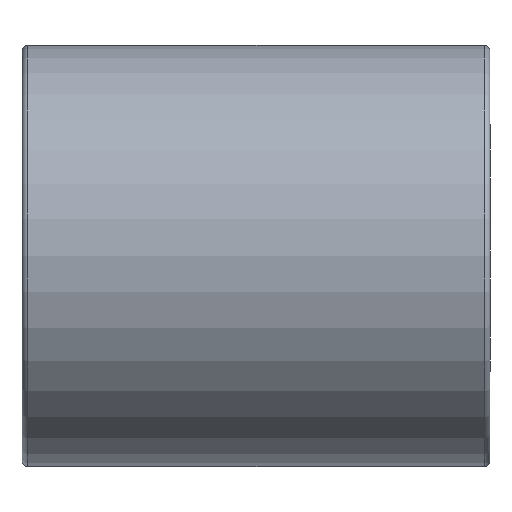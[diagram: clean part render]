
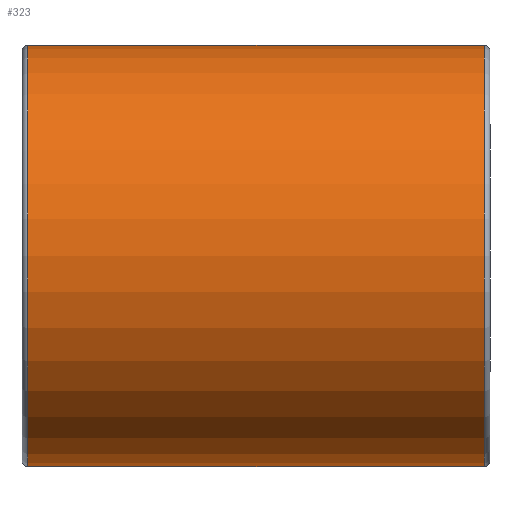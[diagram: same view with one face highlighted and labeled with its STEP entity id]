
A CAD part, top view. The second image highlights one B-rep face of the part: STEP entity #323.
In plain terms, the highlighted cylindrical face has radius 18 mm (diameter 36 mm), a partial arc.
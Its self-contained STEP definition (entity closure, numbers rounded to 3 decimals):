
#203=CARTESIAN_POINT('Vertex',(39.5,-18.,0.)) ;
#210=CARTESIAN_POINT('Vertex',(39.5,18.,0.)) ;
#230=CARTESIAN_POINT('Axis2P3D Location',(39.5,0.,0.)) ;
#251=CARTESIAN_POINT('Vertex',(0.5,18.,0.)) ;
#258=CARTESIAN_POINT('Vertex',(0.5,-18.,0.)) ;
#261=CARTESIAN_POINT('Axis2P3D Location',(0.5,0.,0.)) ;
#295=CARTESIAN_POINT('Line Origine',(20.,18.,0.)) ;
#300=CARTESIAN_POINT('Line Origine',(20.,-18.,0.)) ;
#312=CARTESIAN_POINT('Axis2P3D Location',(20.,0.,0.)) ;
#231=DIRECTION('Axis2P3D Direction',(1.,-0.,0.)) ;
#262=DIRECTION('Axis2P3D Direction',(1.,-0.,0.)) ;
#296=DIRECTION('Vector Direction',(1.,0.,0.)) ;
#301=DIRECTION('Vector Direction',(1.,0.,0.)) ;
#313=DIRECTION('Axis2P3D Direction',(1.,0.,0.)) ;
#314=DIRECTION('Axis2P3D XDirection',(0.,1.,0.)) ;
#232=AXIS2_PLACEMENT_3D('Circle Axis2P3D',#230,#231,$) ;
#263=AXIS2_PLACEMENT_3D('Circle Axis2P3D',#261,#262,$) ;
#315=AXIS2_PLACEMENT_3D('Cylinder Axis2P3D',#312,#313,#314) ;
#318=ORIENTED_EDGE('',*,*,#304,.T.) ;
#319=ORIENTED_EDGE('',*,*,#234,.F.) ;
#320=ORIENTED_EDGE('',*,*,#299,.F.) ;
#321=ORIENTED_EDGE('',*,*,#265,.T.) ;
#297=VECTOR('Line Direction',#296,1.) ;
#302=VECTOR('Line Direction',#301,1.) ;
#323=ADVANCED_FACE('STM22',(#322),#316,.T.) ;
#233=CIRCLE('generated circle',#232,18.) ;
#264=CIRCLE('generated circle',#263,18.) ;
#316=CYLINDRICAL_SURFACE('generated cylinder',#315,18.) ;
#234=EDGE_CURVE('',#211,#204,#233,.T.) ;
#265=EDGE_CURVE('',#252,#259,#264,.T.) ;
#299=EDGE_CURVE('',#252,#211,#298,.T.) ;
#304=EDGE_CURVE('',#259,#204,#303,.T.) ;
#317=EDGE_LOOP('',(#318,#319,#320,#321)) ;
#322=FACE_OUTER_BOUND('',#317,.T.) ;
#298=LINE('Line',#295,#297) ;
#303=LINE('Line',#300,#302) ;
#204=VERTEX_POINT('',#203) ;
#211=VERTEX_POINT('',#210) ;
#252=VERTEX_POINT('',#251) ;
#259=VERTEX_POINT('',#258) ;
